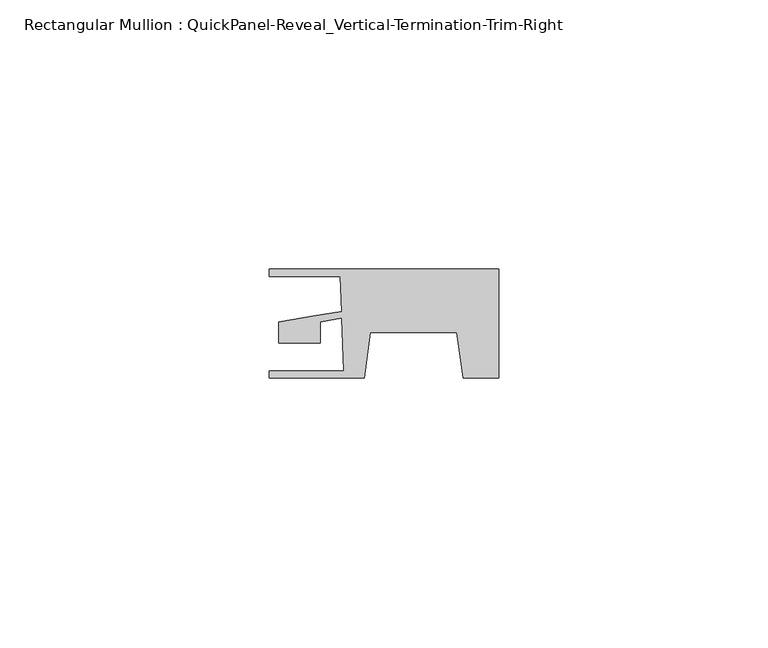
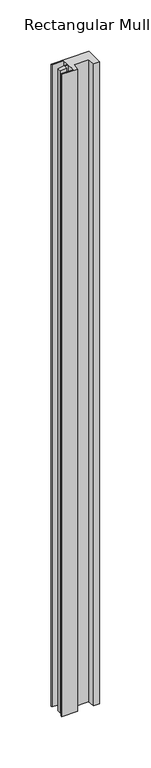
"""IFC4 building model written with IfcOpenShell, lengths in millimetres: member geometry, Rectangular Mullion : QuickPanel-Reveal_Vertical-Termination-Trim-Right."""

from ifc_helpers import new_model, si_unit, frame, origin, place, context, project, spatial, polyline, outline, extrude, source, transform, mapped, element, save


def rectangular_mullion_quickpanel_reveal_vertical_termination_3d01a0f3(model_context):
    return source(origin(), model_context, "Body", "SweptSolid", [
        extrude(outline(polyline([(-42.7011763, 8.095605), (0.0, 8.095605), (0.0, -12.1803727), (-6.6616417, -12.1803727), (-7.8503594, -3.7222065), (-23.8634859, -3.7222065), (-25.0522037, -12.1803727), (-42.7011763, -12.1803727), (-42.7011763, -10.9303752), (-28.8448229, -10.9303752), (-29.1887499, -1.0815922), (-33.1743189, -1.7648465), (-33.1743189, -5.6493034), (-40.919092, -5.6493034), (-40.919092, -1.8040245), (-34.4837593, -0.7008023), (-29.2334784, 0.1992641), (-29.4602636, 6.6935423), (-42.7011763, 6.6935423), (-42.7011763, 8.095605)])), frame((0.0, 0.0, -762.0), z_axis=(0.0, 0.0, 1.0), x_axis=(1.0, 0.0, 0.0)), (0.0, 0.0, 1.0), 762.0),
    ])


if __name__ == "__main__":
    model = new_model("IFC4")
    model_context = context("Model", 3, world=origin())
    ifc_project = project(units=[si_unit("LENGTHUNIT", "METRE", prefix="MILLI")], contexts=[model_context])
    site = spatial("IfcSite", under=ifc_project)
    building = spatial("IfcBuilding", under=site)
    placement = place(None, origin())
    rectangular_mullion_quickpanel_reveal_vertical_termination_shape = rectangular_mullion_quickpanel_reveal_vertical_termination_3d01a0f3(model_context)
    element("IfcMember", 1, ObjectType="Rectangular Mullion : QuickPanel-Reveal_Vertical-Termination-Trim-Right", at=placement, inside=building, context=model_context, shape_type="MappedRepresentation", body=[
        mapped(rectangular_mullion_quickpanel_reveal_vertical_termination_shape, transform((0.0, 0.0, 0.0), x_axis=(1.0, 0.0, 0.0), y_axis=(0.0, 1.0, 0.0), z_axis=(0.0, 0.0, 1.0))),
    ])
    save(model, "model.ifc")
